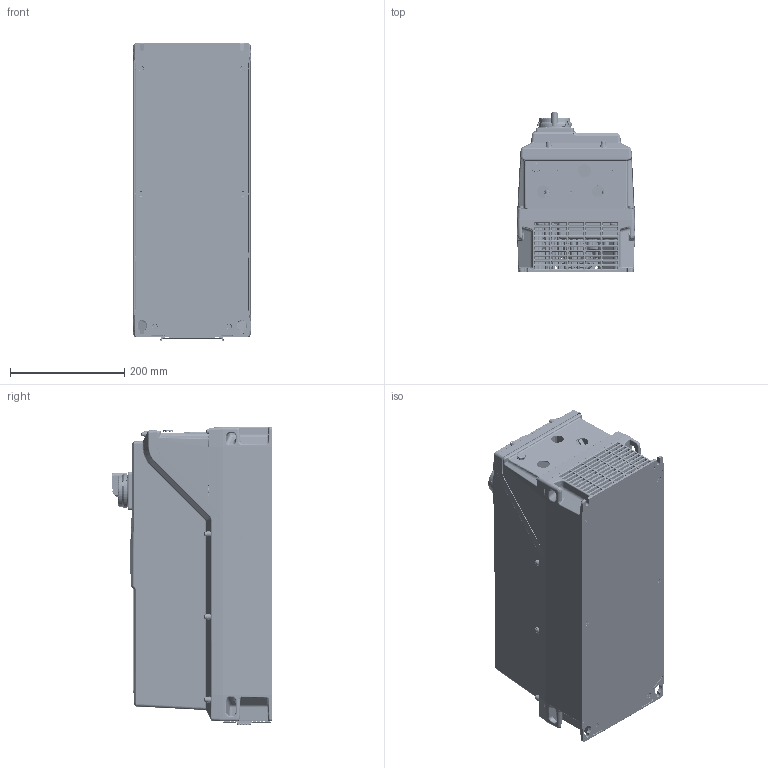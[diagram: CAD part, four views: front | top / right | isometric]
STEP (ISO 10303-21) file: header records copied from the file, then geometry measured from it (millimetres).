
FILE_DESCRIPTION((''),'2;1');
FILE_NAME('02-UL_SWTICH_FUSES_SW0002','2023-10-04T10:35:08',('USMAKAR'),(''),'CREO PARAMETRIC BY PTC INC, 2020281','CREO PARAMETRIC BY PTC INC, 2020281','');
FILE_SCHEMA(('CONFIG_CONTROL_DESIGN'));
Products named in the file (1): 02-UL_SWTICH_FUSES_SW0002
Bounding box: 208 x 281.09 x 522 mm (x, y, z)
Surface area: 1798237.7 mm2 (no closed solid volume)
Topology: 0 solids, 597 shells, 6801 faces, 30830 edges, 23917 vertices
Faces by surface type: cylinder 2205, plane 1966, bspline 1400, torus 579, cone 477, sphere 164, extrusion 10
Entity records: 402041 total; most frequent: CARTESIAN_POINT 175229, ORIENTED_EDGE 42878, DIRECTION 41665, EDGE_CURVE 30828, VERTEX_POINT 23917, VECTOR 17169, LINE 17159, AXIS2_PLACEMENT_3D 12248
